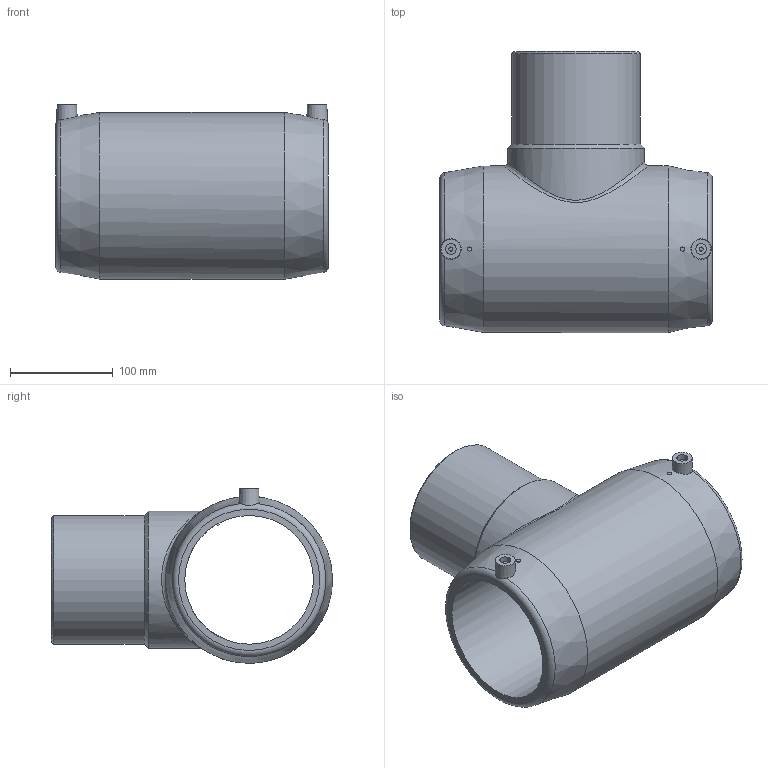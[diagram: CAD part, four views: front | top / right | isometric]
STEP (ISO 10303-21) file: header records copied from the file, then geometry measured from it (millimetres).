
FILE_DESCRIPTION(/* description */ ('Unknown'),/* implementation_level */ '2;1');
FILE_NAME(/* name */ 'TEP125C',/* time_stamp */ '2020-12-09T17:56:07+01:00',/* author */ ('Unknown'),/* organization */ ('Unknown'),/* preprocessor_version */ 'ST-DEVELOPER v16.7',/* originating_system */ 'Solid Edge',/* authorisation */ 'Unknown');
FILE_SCHEMA (('AUTOMOTIVE_DESIGN {1 0 10303 214 3 1 1}'));
Length unit declared in the file: millimetre
Products named in the file (1): TEP125C
Bounding box: 265 x 273 x 169.5 mm (x, y, z)
Volume: 2443320.4 mm3; surface area: 324191 mm2
Topology: 1 solids, 1 shells, 36 faces, 81 edges, 54 vertices
Faces by surface type: plane 14, cylinder 11, cone 8, torus 2, bspline 1
Full cylindrical faces by diameter (mm): 4 x4, 10.5 x2, 102.2 x1, 125 x2, 133 x1, 162 x1
Entity records: 1302 total; most frequent: CARTESIAN_POINT 640, DIRECTION 128, ORIENTED_EDGE 92, EDGE_LOOP 68, FACE_BOUND 68, AXIS2_PLACEMENT_3D 59, EDGE_CURVE 46, VERTEX_POINT 40
